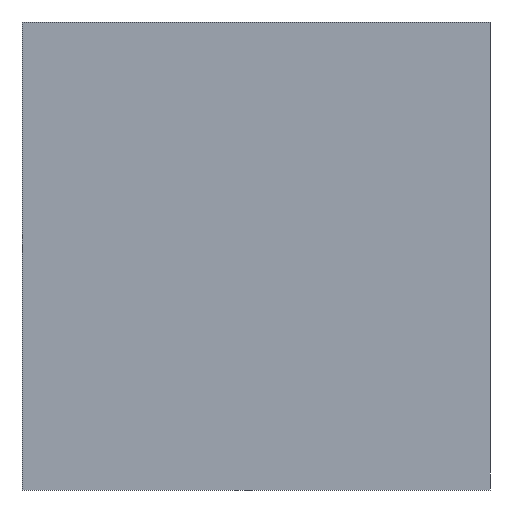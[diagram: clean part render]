
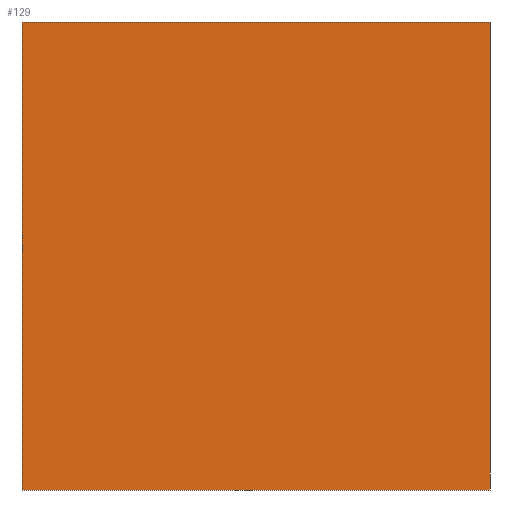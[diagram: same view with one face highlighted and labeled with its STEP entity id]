
A CAD part, front view. The second image highlights one B-rep face of the part: STEP entity #129.
In plain terms, the highlighted planar face has unit normal (0, -1, 0).
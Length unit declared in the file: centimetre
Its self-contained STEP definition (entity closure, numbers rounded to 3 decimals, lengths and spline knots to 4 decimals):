
#1 = CARTESIAN_POINT ( 'NONE',  ( 0., 0., 1000. ) ) ;
#14 = CARTESIAN_POINT ( 'NONE',  ( 1000., 0., 1000. ) ) ;
#40 = ORIENTED_EDGE ( 'NONE', *, *, #368, .F. ) ;
#42 = DIRECTION ( 'NONE',  ( 0., 1., 0. ) ) ;
#43 = EDGE_CURVE ( 'NONE', #390, #62, #274, .T. ) ;
#47 = LINE ( 'NONE', #285, #111 ) ;
#50 = VECTOR ( 'NONE', #128, 100. ) ;
#61 = LINE ( 'NONE', #1, #137 ) ;
#62 = VERTEX_POINT ( 'NONE', #104 ) ;
#66 = LINE ( 'NONE', #152, #186 ) ;
#68 = FACE_OUTER_BOUND ( 'NONE', #377, .T. ) ;
#104 = CARTESIAN_POINT ( 'NONE',  ( 1000., 0., 0. ) ) ;
#111 = VECTOR ( 'NONE', #298, 100. ) ;
#124 = CARTESIAN_POINT ( 'NONE',  ( 0., 0., 0. ) ) ;
#128 = DIRECTION ( 'NONE',  ( 0., 0., -1. ) ) ;
#129 = ADVANCED_FACE ( 'NONE', ( #68 ), #226, .F. ) ;
#137 = VECTOR ( 'NONE', #386, 100. ) ;
#152 = CARTESIAN_POINT ( 'NONE',  ( 0., 0., 0. ) ) ;
#154 = DIRECTION ( 'NONE',  ( 1., 0., 0. ) ) ;
#159 = DIRECTION ( 'NONE',  ( 0., 0., 1. ) ) ;
#164 = CARTESIAN_POINT ( 'NONE',  ( 0., 0., 1000. ) ) ;
#168 = CARTESIAN_POINT ( 'NONE',  ( 0., 0., 1000. ) ) ;
#186 = VECTOR ( 'NONE', #154, 100. ) ;
#208 = EDGE_CURVE ( 'NONE', #254, #303, #47, .T. ) ;
#210 = ORIENTED_EDGE ( 'NONE', *, *, #43, .F. ) ;
#226 = PLANE ( 'NONE',  #268 ) ;
#239 = CARTESIAN_POINT ( 'NONE',  ( 1000., 0., 1000. ) ) ;
#251 = ORIENTED_EDGE ( 'NONE', *, *, #208, .T. ) ;
#254 = VERTEX_POINT ( 'NONE', #168 ) ;
#268 = AXIS2_PLACEMENT_3D ( 'NONE', #164, #42, #159 ) ;
#274 = LINE ( 'NONE', #14, #50 ) ;
#285 = CARTESIAN_POINT ( 'NONE',  ( 0., 0., 1000. ) ) ;
#298 = DIRECTION ( 'NONE',  ( 0., 0., -1. ) ) ;
#303 = VERTEX_POINT ( 'NONE', #124 ) ;
#333 = EDGE_CURVE ( 'NONE', #303, #62, #66, .T. ) ;
#368 = EDGE_CURVE ( 'NONE', #254, #390, #61, .T. ) ;
#370 = ORIENTED_EDGE ( 'NONE', *, *, #333, .T. ) ;
#377 = EDGE_LOOP ( 'NONE', ( #370, #210, #40, #251 ) ) ;
#386 = DIRECTION ( 'NONE',  ( 1., 0., 0. ) ) ;
#390 = VERTEX_POINT ( 'NONE', #239 ) ;
